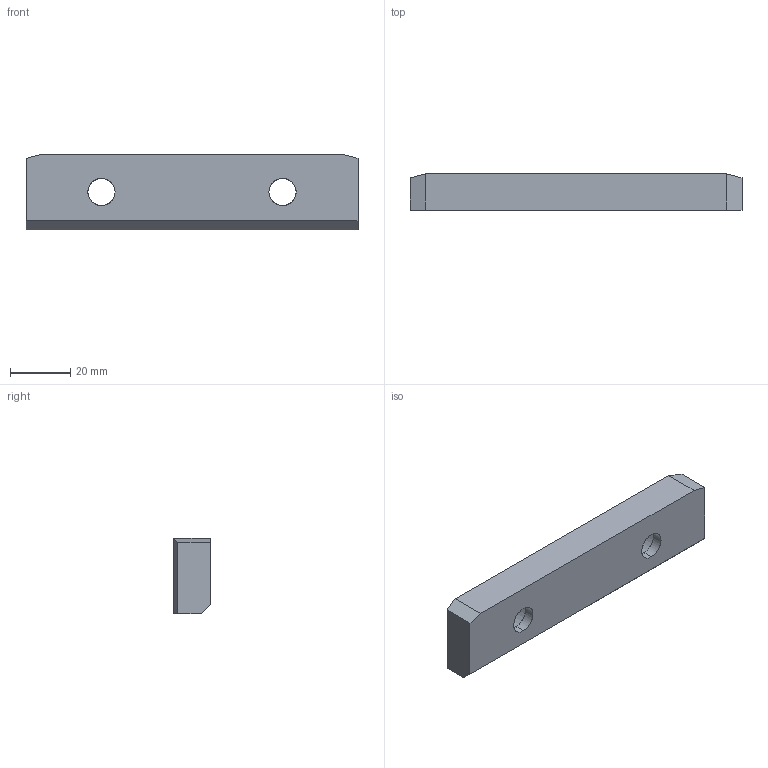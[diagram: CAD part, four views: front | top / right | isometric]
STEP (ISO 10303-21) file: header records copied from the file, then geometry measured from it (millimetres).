
FILE_DESCRIPTION(('CATIA V5 STEP Exchange'),'2;1');
FILE_NAME('C:\Users\Utente\Desktop\3D files A609\A609-012-110.stp','2020-04-13T19:48:17+00:00',('none'),('none'),'CATIA Version 5 Release 20 GA (IN-10)','CATIA V5 STEP AP203','none');
FILE_SCHEMA(('CONFIG_CONTROL_DESIGN'));
Length unit declared in the file: millimetre
Products named in the file (1): Noname
Bounding box: 110 x 12 x 25 mm (x, y, z)
Surface area: 9172.5 mm2 (no closed solid volume)
Topology: 0 solids, 17 shells, 21 faces, 90 edges, 82 vertices
Faces by surface type: extrusion 13, cylinder 8
Entity records: 1145 total; most frequent: CARTESIAN_POINT 417, ORIENTED_EDGE 98, DIRECTION 93, EDGE_CURVE 90, VERTEX_POINT 82, VECTOR 61, LINE 48, B_SPLINE_CURVE_WITH_KNOTS 39
